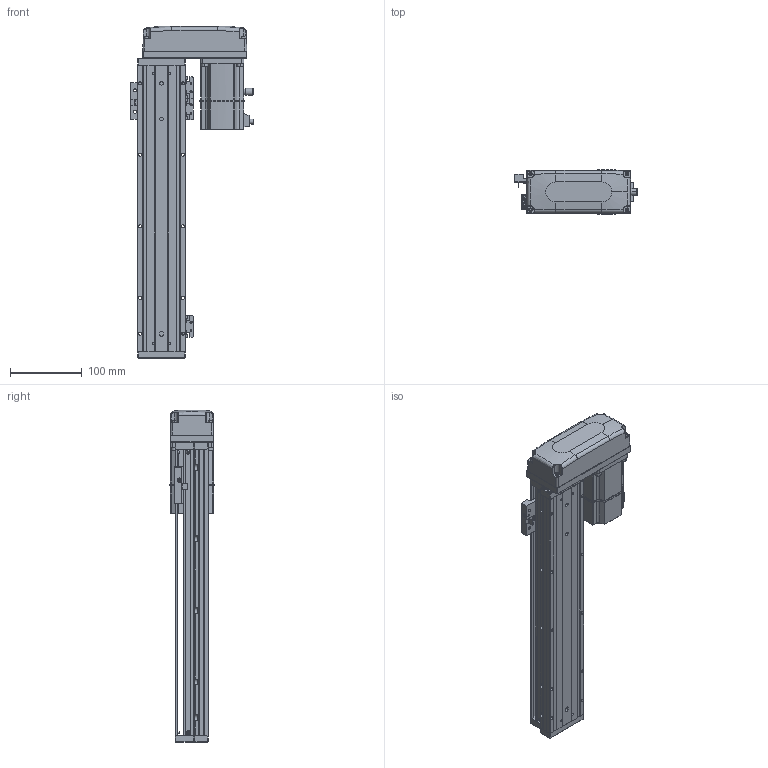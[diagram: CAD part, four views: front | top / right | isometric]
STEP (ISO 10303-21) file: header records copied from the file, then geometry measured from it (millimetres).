
FILE_DESCRIPTION (( 'STEP AP203' ), '1' );
FILE_NAME ('KTHA60-300-BL-M20-C4L.step', '2022-12-16T01:31:55', ( '微软用户' ), ( '微软中国' ), 'SwSTEP 2.0', 'SolidWorks 2020', '' );
FILE_SCHEMA (( 'CONFIG_CONTROL_DESIGN' ));
Length unit declared in the file: millimetre
Products named in the file (17): KTHA60-002; CTHA60-017; BTH80-026; KTHA60-001_400; CTHA60-021; CTHA60-006-2_CTHA60-006-2; KTHA60-004; GBT 70.1-M4×16; _X2_4E0983F1_X0_200W_1; KTHA60-005; GBT77-2000M3-3; KTHA60-300-BL-M20-C4L; GB¨uT 70.2-M3¡Á5_M3¡Á6; GBT 70.1-M3℅6; GBT 70.3-M3℅6; CTHA60-016; EE_SX911P_R
Assembly tree (51 placements, depth 2):
  KTHA60-300-BL-M20-C4L
    KTHA60-001_400
    KTHA60-004
    KTHA60-005
    GB¨uT 70.2-M3¡Á5_M3¡Á6  x6
    GBT 70.3-M3℅6  x4
    EE_SX911P_R  x3
    CTHA60-017  x3
    CTHA60-021  x2
    GBT 70.1-M4×16  x8
    GBT77-2000M3-3  x6
    GBT 70.1-M3℅6  x10
    CTHA60-016  x2
    KTHA60-002
    BTH80-026
    CTHA60-006-2_CTHA60-006-2
    _X2_4E0983F1_X0_200W_1
Bounding box: 172.1 x 62.42 x 464 mm (x, y, z)
Volume: 1174270 mm3; surface area: 310238.8 mm2
Topology: 54 solids, 54 shells, 2408 faces, 5717 edges, 3514 vertices
Faces by surface type: plane 1273, cylinder 638, cone 280, bspline 109, torus 92, sphere 16
Entity records: 44240 total; most frequent: CARTESIAN_POINT 10370, ORIENTED_EDGE 6482, DIRECTION 6478, EDGE_CURVE 3241, AXIS2_PLACEMENT_3D 2241, VERTEX_POINT 2023, LINE 1996, VECTOR 1996
